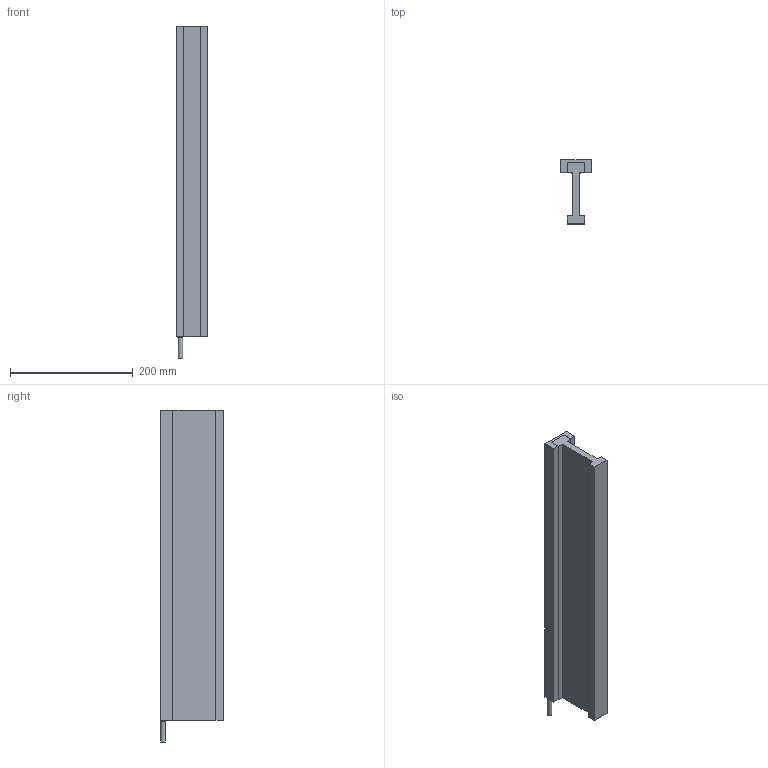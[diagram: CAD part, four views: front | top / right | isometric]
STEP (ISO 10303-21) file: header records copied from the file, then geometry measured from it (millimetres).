
FILE_DESCRIPTION (( 'STEP AP214' ), '1' );
FILE_NAME ('DX65F-C8-NH.step', '2022-09-22T03:42:02', ( '' ), ( '' ), 'SwSTEP 2.0', 'SolidWorks 2020', '' );
FILE_SCHEMA (( 'AUTOMOTIVE_DESIGN' ));
Length unit declared in the file: millimetre
Products named in the file (1): DX65F-C8-NH
Bounding box: 49 x 104 x 540 mm (x, y, z)
Volume: 1082536.7 mm3; surface area: 238463.2 mm2
Topology: 3 solids, 3 shells, 117 faces, 284 edges, 158 vertices
Faces by surface type: cylinder 48, cone 36, plane 31, torus 2
Entity records: 4487 total; most frequent: DIRECTION 582, CARTESIAN_POINT 524, ORIENTED_EDGE 496, EDGE_CURVE 248, AXIS2_PLACEMENT_3D 216, VERTEX_POINT 158, LINE 150, VECTOR 150
